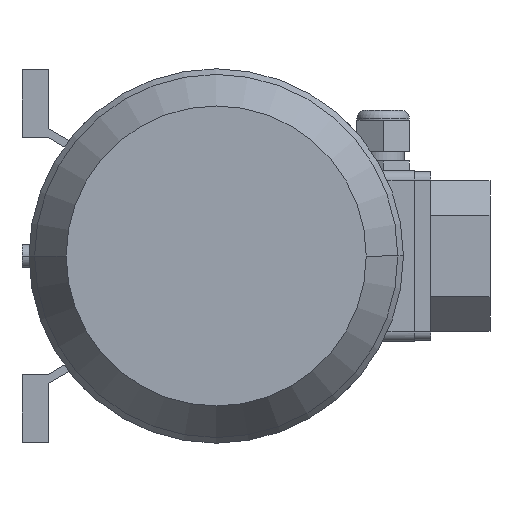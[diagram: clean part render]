
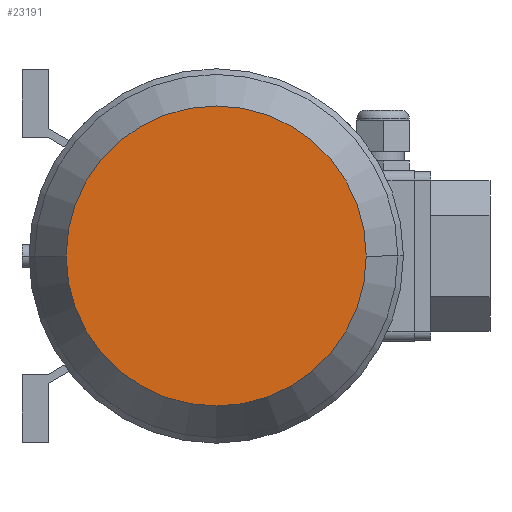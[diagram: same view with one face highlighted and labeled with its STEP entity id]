
A CAD part, front view. The second image highlights one B-rep face of the part: STEP entity #23191.
In plain terms, the highlighted planar face has unit normal (0, -1, 0) as drawn and (1, 0, 0) by its records, which use the part's own axes.
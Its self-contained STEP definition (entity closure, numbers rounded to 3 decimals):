
#16044=CARTESIAN_POINT('',(304.,0.,0.));
#16045=DIRECTION('',(-1.,0.,0.));
#16046=DIRECTION('',(0.,1.,0.));
#16047=AXIS2_PLACEMENT_3D('',#16044,#16045,#16046);
#16052=CARTESIAN_POINT('',(304.,0.,0.));
#16053=DIRECTION('',(1.,0.,0.));
#16054=DIRECTION('',(0.,1.,0.));
#16055=AXIS2_PLACEMENT_3D('',#16052,#16053,#16054);
#16409=CARTESIAN_POINT('',(304.,77.253,0.));
#16411=VERTEX_POINT('',#16409);
#16419=CARTESIAN_POINT('',(304.,-77.253,0.));
#16421=VERTEX_POINT('',#16419);
#23182=CARTESIAN_POINT('',(304.,0.,0.));
#23183=DIRECTION('',(1.,0.,0.));
#23184=DIRECTION('',(0.,-1.,0.));
#23185=AXIS2_PLACEMENT_3D('',#23182,#23183,#23184);
#23186=PLANE('',#23185);
#23187=ORIENTED_EDGE('',*,*,#23164,.T.);
#23188=ORIENTED_EDGE('',*,*,#23175,.F.);
#23189=EDGE_LOOP('',(#23187,#23188));
#23190=FACE_OUTER_BOUND('',#23189,.F.);
#16048=CIRCLE('',#16047,77.253);
#16056=CIRCLE('',#16055,77.253);
#23164=EDGE_CURVE('',#16411,#16421,#16048,.T.);
#23175=EDGE_CURVE('',#16411,#16421,#16056,.T.);
#23191=ADVANCED_FACE('',(#23190),#23186,.T.);
